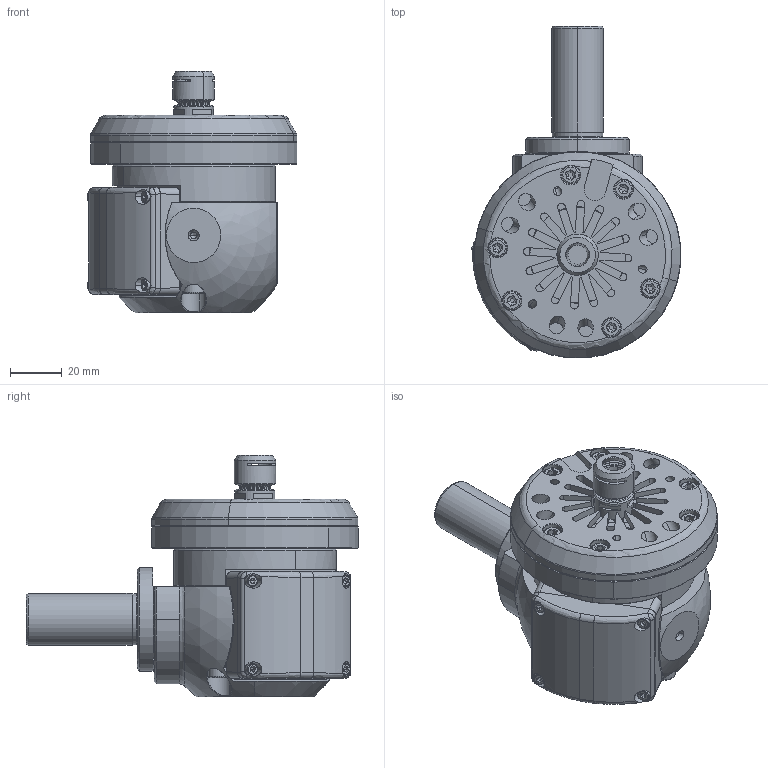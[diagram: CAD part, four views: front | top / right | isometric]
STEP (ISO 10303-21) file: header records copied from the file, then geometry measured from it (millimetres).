
FILE_DESCRIPTION (( 'STEP AP214' ), '1' );
FILE_NAME ('POWER ST20 90D.STEP', '2025-12-09T12:52:27', ( 'pc' ), ( '' ), 'SwSTEP 2.0', 'SolidWorks 2024', '' );
FILE_SCHEMA (( 'AUTOMOTIVE_DESIGN' ));
Length unit declared in the file: millimetre
Products named in the file (1): POWER ST20 90D
Bounding box: 80.94 x 128.35 x 93.5 mm (x, y, z)
Volume: 190365.1 mm3; surface area: 89119.6 mm2
Topology: 22 solids, 22 shells, 1513 faces, 3670 edges, 2222 vertices
Faces by surface type: plane 543, cylinder 479, cone 308, torus 140, bspline 41, sphere 2
Entity records: 47657 total; most frequent: CARTESIAN_POINT 11916, DIRECTION 7722, ORIENTED_EDGE 7252, EDGE_CURVE 3626, AXIS2_PLACEMENT_3D 2964, VERTEX_POINT 2221, VECTOR 1794, LINE 1794
